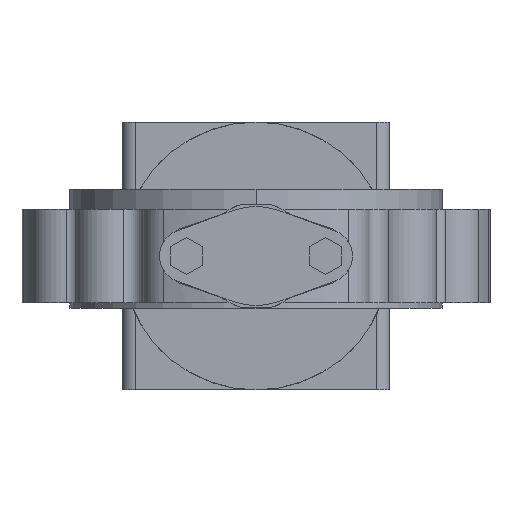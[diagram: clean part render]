
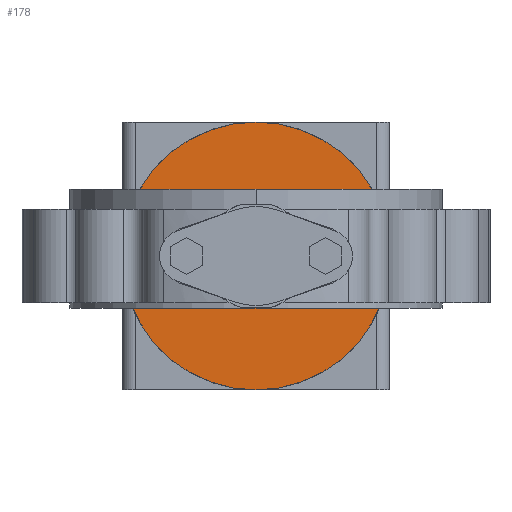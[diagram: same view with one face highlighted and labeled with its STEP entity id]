
A CAD part, front view. The second image highlights one B-rep face of the part: STEP entity #178.
In plain terms, the highlighted planar face has unit normal (0, -1, 0).
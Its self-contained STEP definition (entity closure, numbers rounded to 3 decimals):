
#178 = ADVANCED_FACE( '', ( #589, #590 ), #591, .T. );
#589 = FACE_OUTER_BOUND( '', #1233, .T. );
#590 = FACE_BOUND( '', #1234, .T. );
#591 = PLANE( '', #1235 );
#1233 = EDGE_LOOP( '', ( #2443, #2444 ) );
#1234 = EDGE_LOOP( '', ( #2445, #2446, #2447, #2448 ) );
#1235 = AXIS2_PLACEMENT_3D( '', #2449, #2450, #2451 );
#2443 = ORIENTED_EDGE( '', *, *, #4247, .F. );
#2444 = ORIENTED_EDGE( '', *, *, #4425, .F. );
#2445 = ORIENTED_EDGE( '', *, *, #4426, .T. );
#2446 = ORIENTED_EDGE( '', *, *, #4427, .T. );
#2447 = ORIENTED_EDGE( '', *, *, #4428, .T. );
#2448 = ORIENTED_EDGE( '', *, *, #4429, .T. );
#2449 = CARTESIAN_POINT( '', ( 59., 250., 0. ) );
#2450 = DIRECTION( '', ( 0., -1., 0. ) );
#2451 = DIRECTION( '', ( -1., 0., 0. ) );
#4247 = EDGE_CURVE( '', #5174, #5177, #5178, .T. );
#4425 = EDGE_CURVE( '', #5177, #5174, #5465, .T. );
#4426 = EDGE_CURVE( '', #5466, #5467, #5468, .T. );
#4427 = EDGE_CURVE( '', #5467, #5469, #5470, .T. );
#4428 = EDGE_CURVE( '', #5469, #5471, #5472, .T. );
#4429 = EDGE_CURVE( '', #5471, #5466, #5473, .T. );
#5174 = VERTEX_POINT( '', #6917 );
#5177 = VERTEX_POINT( '', #6921 );
#5178 = CIRCLE( '', #6922, 100. );
#5465 = CIRCLE( '', #7539, 100. );
#5466 = VERTEX_POINT( '', #7540 );
#5467 = VERTEX_POINT( '', #7541 );
#5468 = LINE( '', #7542, #7543 );
#5469 = VERTEX_POINT( '', #7544 );
#5470 = LINE( '', #7545, #7546 );
#5471 = VERTEX_POINT( '', #7547 );
#5472 = LINE( '', #7548, #7549 );
#5473 = LINE( '', #7550, #7551 );
#6917 = CARTESIAN_POINT( '', ( 100., 250., 0. ) );
#6921 = CARTESIAN_POINT( '', ( -100., 250., 0. ) );
#6922 = AXIS2_PLACEMENT_3D( '', #8936, #8937, #8938 );
#7539 = AXIS2_PLACEMENT_3D( '', #9284, #9285, #9286 );
#7540 = CARTESIAN_POINT( '', ( -49., 250., -35. ) );
#7541 = CARTESIAN_POINT( '', ( -49., 250., 35. ) );
#7542 = CARTESIAN_POINT( '', ( -49., 250., -35. ) );
#7543 = VECTOR( '', #9287, 1. );
#7544 = CARTESIAN_POINT( '', ( 49., 250., 35. ) );
#7545 = CARTESIAN_POINT( '', ( -49., 250., 35. ) );
#7546 = VECTOR( '', #9288, 1. );
#7547 = CARTESIAN_POINT( '', ( 49., 250., -35. ) );
#7548 = CARTESIAN_POINT( '', ( 49., 250., 35. ) );
#7549 = VECTOR( '', #9289, 1. );
#7550 = CARTESIAN_POINT( '', ( 49., 250., -35. ) );
#7551 = VECTOR( '', #9290, 1. );
#8936 = CARTESIAN_POINT( '', ( 0., 250., 0. ) );
#8937 = DIRECTION( '', ( 0., 1., 0. ) );
#8938 = DIRECTION( '', ( 1., 0., 0. ) );
#9284 = CARTESIAN_POINT( '', ( 0., 250., 0. ) );
#9285 = DIRECTION( '', ( 0., 1., 0. ) );
#9286 = DIRECTION( '', ( 1., 0., 0. ) );
#9287 = DIRECTION( '', ( 0., 0., 1. ) );
#9288 = DIRECTION( '', ( 1., 0., 0. ) );
#9289 = DIRECTION( '', ( 0., 0., -1. ) );
#9290 = DIRECTION( '', ( -1., 0., 0. ) );
